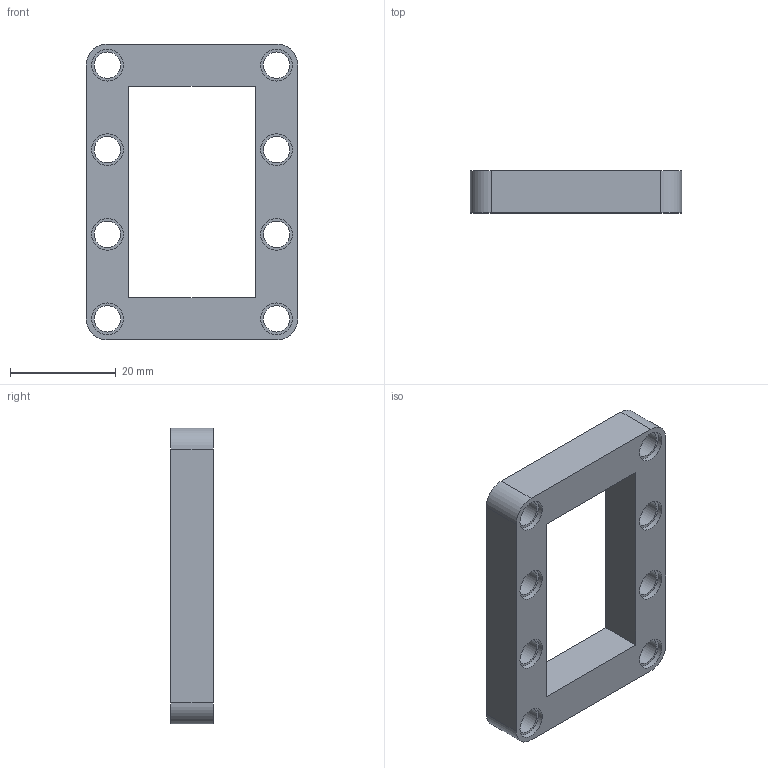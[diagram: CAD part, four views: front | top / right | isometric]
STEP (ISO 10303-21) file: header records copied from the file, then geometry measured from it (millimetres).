
FILE_DESCRIPTION(/* description */ (''),/* implementation_level */ '2;1');
FILE_NAME(/* name */ 'C:/Users/Norberto Torres/Documents/School/DASL/LEGO Parts/xxxxxx - Base v2.step',/* time_stamp */ '2019-02-26T20:21:50-08:00',/* author */ ('norbertotorres94@hotmail.com'),/* organization */ (''),/* preprocessor_version */ 'ST-DEVELOPER v17.2',/* originating_system */ 'Autodesk Translation Framework v7.6.0.251',/* authorisation */ '');
FILE_SCHEMA (('AUTOMOTIVE_DESIGN { 1 0 10303 214 3 1 1 }'));
Length unit declared in the file: millimetre
Products named in the file (1): xxxxxx - Base
Bounding box: 40 x 8 x 56 mm (x, y, z)
Volume: 8735.3 mm3; surface area: 5779 mm2
Topology: 1 solids, 1 shells, 54 faces, 108 edges, 72 vertices
Faces by surface type: cylinder 28, plane 26
Full cylindrical faces by diameter (mm): 5 x8, 6 x16
Entity records: 1504 total; most frequent: DIRECTION 274, CARTESIAN_POINT 235, ORIENTED_EDGE 216, AXIS2_PLACEMENT_3D 111, EDGE_CURVE 108, EDGE_LOOP 88, VERTEX_POINT 72, CIRCLE 56
